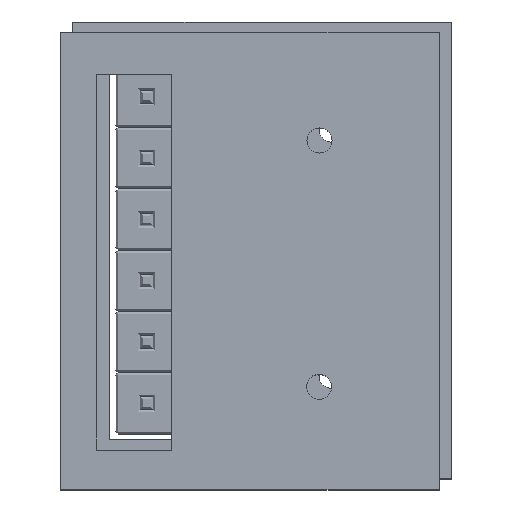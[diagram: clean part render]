
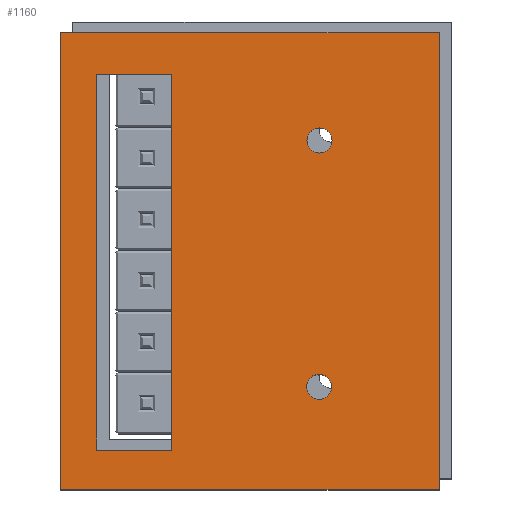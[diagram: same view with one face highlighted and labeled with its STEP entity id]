
A CAD part, top view. The second image highlights one B-rep face of the part: STEP entity #1160.
In plain terms, the highlighted planar face has unit normal (0, 0, 1).
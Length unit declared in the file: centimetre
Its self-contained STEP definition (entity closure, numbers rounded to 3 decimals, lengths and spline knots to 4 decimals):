
#502=CIRCLE('',#1419,0.0509);
#503=CIRCLE('',#1420,0.0512);
#518=ORIENTED_EDGE('',*,*,#694,.F.);
#519=ORIENTED_EDGE('',*,*,#695,.T.);
#520=ORIENTED_EDGE('',*,*,#696,.T.);
#521=ORIENTED_EDGE('',*,*,#697,.F.);
#522=ORIENTED_EDGE('',*,*,#698,.F.);
#523=ORIENTED_EDGE('',*,*,#699,.F.);
#524=ORIENTED_EDGE('',*,*,#700,.F.);
#525=ORIENTED_EDGE('',*,*,#701,.T.);
#526=ORIENTED_EDGE('',*,*,#702,.T.);
#527=ORIENTED_EDGE('',*,*,#703,.F.);
#694=EDGE_CURVE('',#782,#783,#846,.T.);
#695=EDGE_CURVE('',#782,#784,#847,.T.);
#696=EDGE_CURVE('',#784,#785,#848,.T.);
#697=EDGE_CURVE('',#783,#785,#849,.T.);
#698=EDGE_CURVE('',#786,#786,#502,.T.);
#699=EDGE_CURVE('',#787,#787,#503,.T.);
#700=EDGE_CURVE('',#788,#789,#850,.T.);
#701=EDGE_CURVE('',#788,#790,#851,.T.);
#702=EDGE_CURVE('',#790,#791,#852,.T.);
#703=EDGE_CURVE('',#789,#791,#853,.T.);
#782=VERTEX_POINT('',#1960);
#783=VERTEX_POINT('',#1961);
#784=VERTEX_POINT('',#1963);
#785=VERTEX_POINT('',#1965);
#786=VERTEX_POINT('',#1968);
#787=VERTEX_POINT('',#1970);
#788=VERTEX_POINT('',#1972);
#789=VERTEX_POINT('',#1973);
#790=VERTEX_POINT('',#1975);
#791=VERTEX_POINT('',#1977);
#846=LINE('',#1959,#918);
#847=LINE('',#1962,#919);
#848=LINE('',#1964,#920);
#849=LINE('',#1966,#921);
#850=LINE('',#1971,#922);
#851=LINE('',#1974,#923);
#852=LINE('',#1976,#924);
#853=LINE('',#1978,#925);
#918=VECTOR('',#1577,100.);
#919=VECTOR('',#1578,100.);
#920=VECTOR('',#1579,100.);
#921=VECTOR('',#1580,100.);
#922=VECTOR('',#1585,100.);
#923=VECTOR('',#1586,100.);
#924=VECTOR('',#1587,100.);
#925=VECTOR('',#1588,100.);
#990=EDGE_LOOP('',(#518,#519,#520,#521));
#991=EDGE_LOOP('',(#522));
#992=EDGE_LOOP('',(#523));
#993=EDGE_LOOP('',(#524,#525,#526,#527));
#1058=FACE_BOUND('',#990,.T.);
#1059=FACE_BOUND('',#991,.T.);
#1060=FACE_BOUND('',#992,.T.);
#1061=FACE_BOUND('',#993,.T.);
#1126=PLANE('',#1418);
#1160=ADVANCED_FACE('',(#1058,#1059,#1060,#1061),#1126,.T.);
#1418=AXIS2_PLACEMENT_3D('',#1958,#1575,#1576);
#1419=AXIS2_PLACEMENT_3D('',#1967,#1581,#1582);
#1420=AXIS2_PLACEMENT_3D('',#1969,#1583,#1584);
#1575=DIRECTION('',(0.,0.,1.));
#1576=DIRECTION('',(1.,0.,0.));
#1577=DIRECTION('',(0.,1.,0.));
#1578=DIRECTION('',(1.,0.,0.));
#1579=DIRECTION('',(0.,1.,0.));
#1580=DIRECTION('',(1.,0.,0.));
#1581=DIRECTION('',(0.,0.,1.));
#1582=DIRECTION('',(0.,-1.,0.));
#1583=DIRECTION('',(0.,0.,1.));
#1584=DIRECTION('',(0.,-1.,0.));
#1585=DIRECTION('',(-1.,0.,0.));
#1586=DIRECTION('',(0.,-1.,0.));
#1587=DIRECTION('',(-1.,0.,0.));
#1588=DIRECTION('',(0.,-1.,0.));
#1958=CARTESIAN_POINT('',(1.0854,3.765,3.7029));
#1959=CARTESIAN_POINT('',(0.3281,3.8539,3.7029));
#1960=CARTESIAN_POINT('',(0.3281,2.8831,3.7029));
#1961=CARTESIAN_POINT('',(0.3281,4.7469,3.7029));
#1962=CARTESIAN_POINT('',(1.1743,2.8831,3.7029));
#1963=CARTESIAN_POINT('',(1.8726,2.8831,3.7029));
#1964=CARTESIAN_POINT('',(1.8726,3.6761,3.7029));
#1965=CARTESIAN_POINT('',(1.8726,4.7469,3.7029));
#1966=CARTESIAN_POINT('',(1.8337,4.7469,3.7029));
#1967=CARTESIAN_POINT('',(1.3832,3.3032,3.7029));
#1968=CARTESIAN_POINT('',(1.3832,3.2523,3.7029));
#1969=CARTESIAN_POINT('',(1.3844,4.3079,3.7029));
#1970=CARTESIAN_POINT('',(1.3844,4.2567,3.7029));
#1971=CARTESIAN_POINT('',(0.6294,4.5771,3.7029));
#1972=CARTESIAN_POINT('',(0.7826,4.5771,3.7029));
#1973=CARTESIAN_POINT('',(0.4762,4.5771,3.7029));
#1974=CARTESIAN_POINT('',(0.7826,3.8112,3.7029));
#1975=CARTESIAN_POINT('',(0.7826,3.0453,3.7029));
#1976=CARTESIAN_POINT('',(0.6294,3.0453,3.7029));
#1977=CARTESIAN_POINT('',(0.4762,3.0453,3.7029));
#1978=CARTESIAN_POINT('',(0.4762,3.8112,3.7029));
